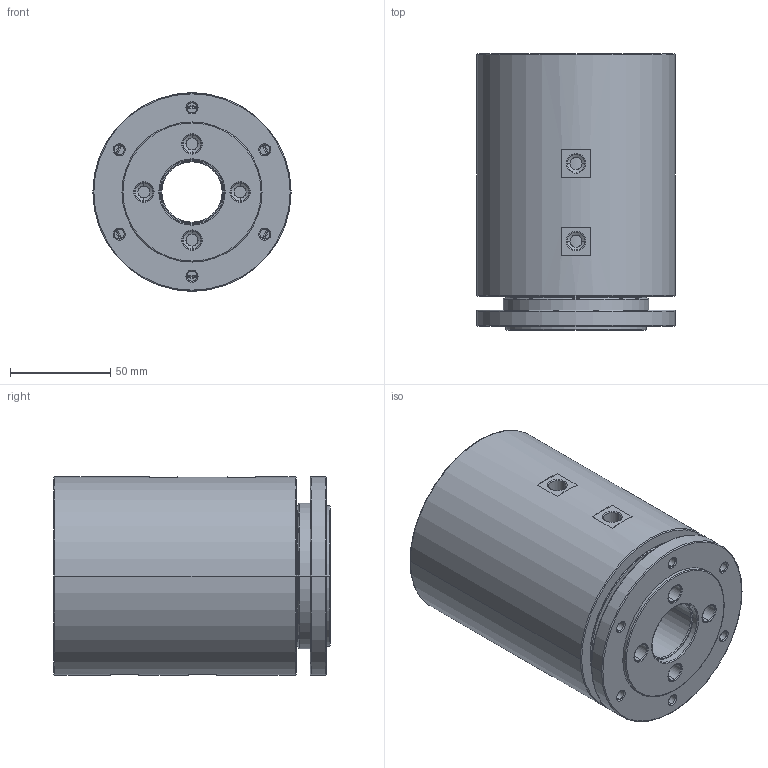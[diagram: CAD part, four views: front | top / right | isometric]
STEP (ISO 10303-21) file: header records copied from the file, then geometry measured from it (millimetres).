
FILE_DESCRIPTION (( 'STEP AP214' ), '1' );
FILE_NAME ('4T100-30.STEP', '2025-10-10T10:06:21', ( '' ), ( '' ), 'SwSTEP 2.0', 'SolidWorks 2020', '' );
FILE_SCHEMA (( 'AUTOMOTIVE_DESIGN' ));
Length unit declared in the file: millimetre
Products named in the file (6): deep groove ball bearings gb_Rolling bearings 61813 GB 276-94; circlips for shaft--type a large gb_GB_CONNECTING_PIECE_RING_RRA 55; deep groove ball bearings gb_Rolling bearings 61811 GB 276-94; 錨璃2; 4T100-30; 錨璃1
Assembly tree (5 placements, depth 2):
  4T100-30
    錨璃1
    deep groove ball bearings gb_Rolling bearings 61813 GB 276-94
    deep groove ball bearings gb_Rolling bearings 61811 GB 276-94
    錨璃2
    circlips for shaft--type a large gb_GB_CONNECTING_PIECE_RING_RRA 55
Bounding box: 99 x 138 x 99 mm (x, y, z)
Volume: 857636.9 mm3; surface area: 179313.5 mm2
Topology: 5 solids, 5 shells, 954 faces, 3753 edges, 2484 vertices
Faces by surface type: torus 419, cylinder 208, sphere 182, plane 83, cone 54, bspline 8
Entity records: 44141 total; most frequent: CARTESIAN_POINT 16564, ORIENTED_EDGE 6398, DIRECTION 5282, EDGE_CURVE 3199, AXIS2_PLACEMENT_3D 2487, VERTEX_POINT 2120, CIRCLE 1533, B_SPLINE_CURVE_WITH_KNOTS 1330
